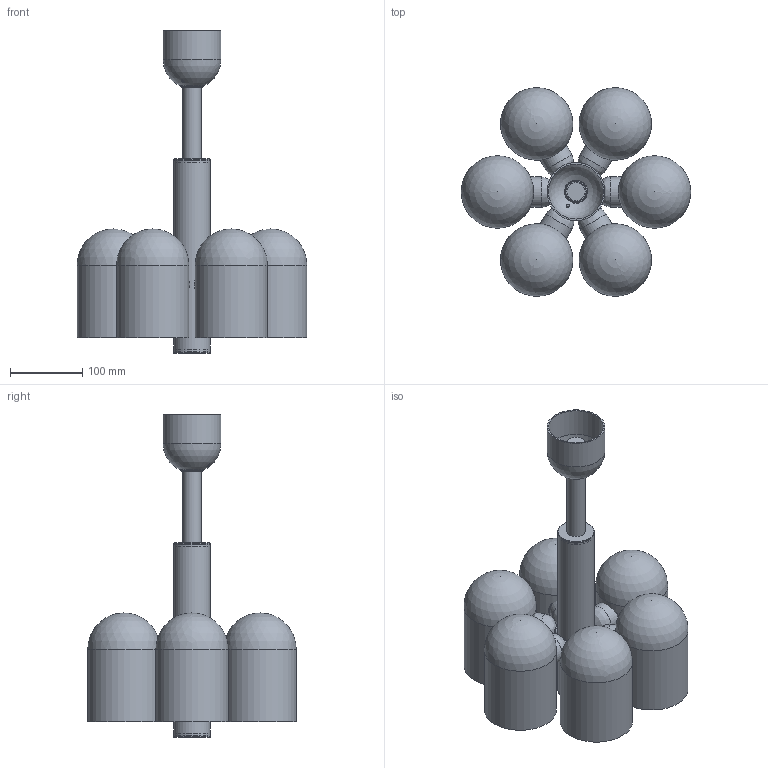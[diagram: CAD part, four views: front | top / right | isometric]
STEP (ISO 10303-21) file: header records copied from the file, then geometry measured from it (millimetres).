
FILE_DESCRIPTION(/* description */ (''),/* implementation_level */ '2;1');
FILE_NAME(/* name */ 'T:\B142 Odyssey Pendant 6\Pliki bryłowe handlowe\B142 Odyssey 6 3D files_na stronę\B142 Odyssey 6.stp',/* time_stamp */ '2022-02-02T13:32:14+01:00',/* author */ ('Mariusz Awariusz'),/* organization */ (''),/* preprocessor_version */ 'ST-DEVELOPER v18.1',/* originating_system */ 'Autodesk Inventor 2022',/* authorisation */ '');
FILE_SCHEMA (('AUTOMOTIVE_DESIGN { 1 0 10303 214 3 1 1 }'));
Length unit declared in the file: millimetre
Products named in the file (1): B142 Odyssey Pendant 6 CE v11_na potrzeby plików 3D_2_jako część_
korpusy bryłowe
Bounding box: 317.1 x 288.01 x 446 mm (x, y, z)
Volume: 7234577.3 mm3; surface area: 500648.6 mm2
Topology: 35 solids, 35 shells, 150 faces, 243 edges, 160 vertices
Faces by surface type: plane 61, cylinder 56, bspline 19, sphere 9, cone 5
Full cylindrical faces by diameter (mm): 4 x1, 10 x4, 13 x6, 25 x1, 28 x2, 30 x1, 31.5 x1, 32 x1, 37 x6, 42 x6, 44 x6, 46 x2, 48 x2, 50 x3, 76 x1, 80 x1, 100 x6
Entity records: 11978 total; most frequent: CARTESIAN_POINT 9132, DIRECTION 621, ORIENTED_EDGE 474, AXIS2_PLACEMENT_3D 280, EDGE_CURVE 237, EDGE_LOOP 171, VERTEX_POINT 160, FACE_OUTER_BOUND 150
